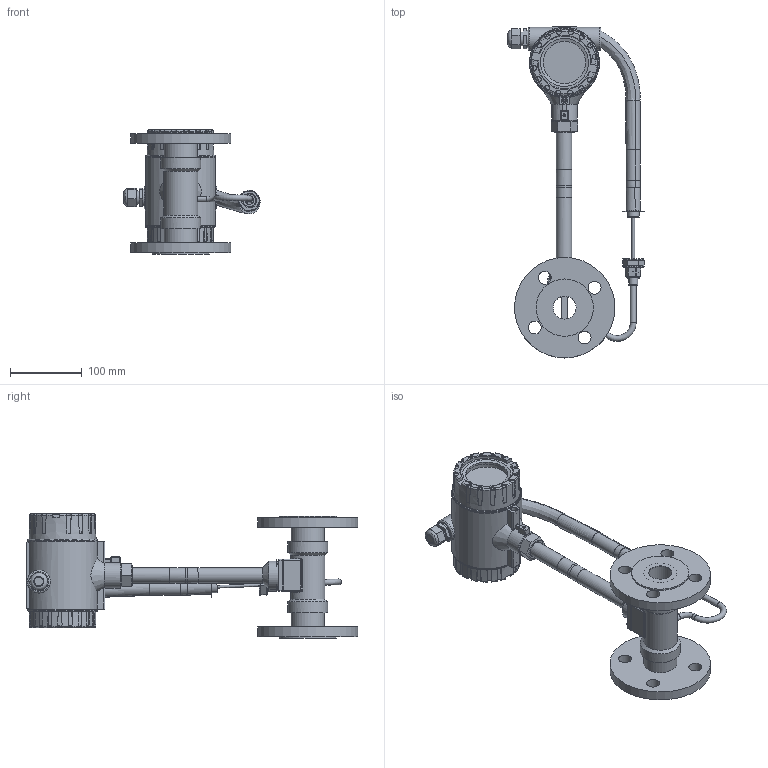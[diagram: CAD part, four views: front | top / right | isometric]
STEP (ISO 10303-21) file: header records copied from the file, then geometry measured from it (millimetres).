
FILE_DESCRIPTION(/* description */ ('STEP AP214'),/* implementation_level */ '2;1');
FILE_NAME(/* name */ 'DN32 vortex.step',/* time_stamp */ '2025-09-25T17:36:54+03:00',/* author */ (''),/* organization */ (''),/* preprocessor_version */ 'ST-DEVELOPER v20.1',/* originating_system */ 'Autodesk Translation Framework v14.10.0.0',/* authorisation */ '');
FILE_SCHEMA (('AUTOMOTIVE_DESIGN { 1 0 10303 214 3 1 1 }'));
Length unit declared in the file: millimetre
Products named in the file (1): DN100法兰连接装配体
Bounding box: 189.8 x 462.75 x 173.34 mm (x, y, z)
Volume: 1227096.8 mm3; surface area: 381079.1 mm2
Topology: 22 solids, 23 shells, 907 faces, 2251 edges, 1428 vertices
Faces by surface type: plane 510, cylinder 248, torus 59, cone 45, bspline 41, sphere 4
Full cylindrical faces by diameter (mm): 2.88 x1, 3.3 x1, 3.65 x2, 3.78 x8, 4.2 x2, 5.4 x8, 6 x4, 8 x4, 8.1 x1, 8.7 x2, 10 x1, 12 x1, 12.4 x1, 13 x1, 14 x1, 16 x2, 16.2 x2, 17.727 x4, 18 x12, 19 x7, 19.2 x2, 20.6 x1, 20.655 x1, 21.6 x2, 22.6 x1, 24.2 x1, 28 x2, 31.9 x2, 32 x3, 34.2 x1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
Entity records: 31533 total; most frequent: CARTESIAN_POINT 9597, DIRECTION 4713, ORIENTED_EDGE 4488, EDGE_CURVE 2244, AXIS2_PLACEMENT_3D 1791, VERTEX_POINT 1428, LINE 1131, VECTOR 1131
